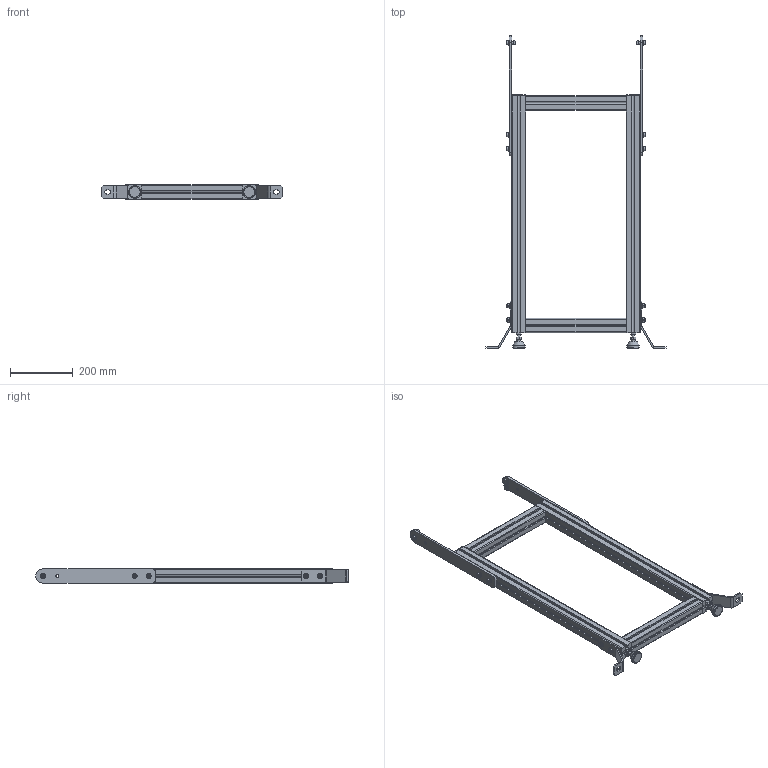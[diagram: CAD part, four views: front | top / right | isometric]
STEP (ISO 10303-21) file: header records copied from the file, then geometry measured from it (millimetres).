
FILE_DESCRIPTION (( 'STEP AP214' ), '1' );
FILE_NAME ('983-008-400.STEP', '2020-11-23T08:58:20', ( '' ), ( '' ), 'SwSTEP 2.0', 'SolidWorks 2020', '' );
FILE_SCHEMA (( 'AUTOMOTIVE_DESIGN' ));
Length unit declared in the file: millimetre
Products named in the file (15): 905-021; CHC M8X20 + RP8; 983-007; 905-020; 935-016; 910-100; 982-017; 935-055; 983-008-400; CHC THE_910-052H; EMBOUT_915-010; CHASSIS JAMBAGE TB52 400_D‚faut[Brut d''usinage]; 935-055SV; RONDELLE_910-111; 910-002_910-235
Assembly tree (22 placements, depth 4):
  983-008-400
    CHASSIS JAMBAGE TB52 400_D‚faut[Brut d''usinage]
    935-055  x2
      935-055SV
      910-100
      910-002_910-235
    EMBOUT_915-010  x2
    983-007  x2
      CHC M8X20 + RP8
        CHC THE_910-052H
        RONDELLE_910-111
      905-020
      905-021
      982-017
    935-016  x2
Bounding box: 576 x 996.5 x 45 mm (x, y, z)
Volume: 3182094.6 mm3; surface area: 931493.4 mm2
Topology: 36 solids, 36 shells, 784 faces, 1912 edges, 1216 vertices
Faces by surface type: plane 530, cylinder 160, cone 72, torus 12, sphere 8, bspline 2
Full cylindrical faces by diameter (mm): 6 x6, 6.8 x10, 7.3 x4, 7.98 x6, 8 x14, 8.4 x6, 8.5 x8, 9 x4, 13 x6, 16 x6, 17 x4, 34 x2, 40 x2
Entity records: 11805 total; most frequent: CARTESIAN_POINT 2065, DIRECTION 1858, ORIENTED_EDGE 1828, EDGE_CURVE 914, VECTOR 732, LINE 732, VERTEX_POINT 618, AXIS2_PLACEMENT_3D 563
